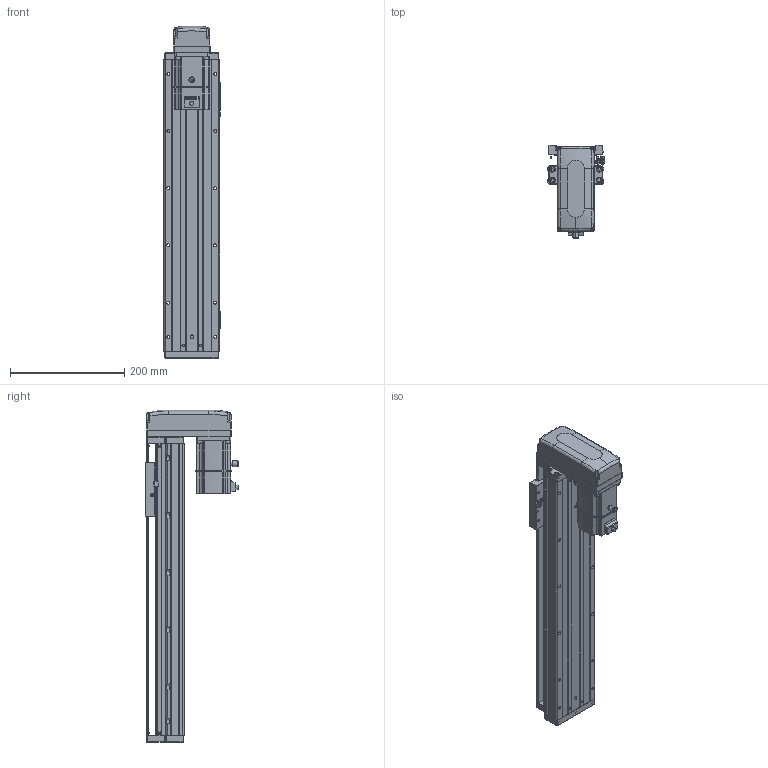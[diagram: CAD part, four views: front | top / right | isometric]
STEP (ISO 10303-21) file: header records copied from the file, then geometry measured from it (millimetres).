
FILE_DESCRIPTION (( 'STEP AP203' ), '1' );
FILE_NAME ('KTHA100-350-BM-M20-C4L.step', '2022-04-26T01:52:50', ( '微软用户' ), ( '微软中国' ), 'SwSTEP 2.0', 'SolidWorks 2020', '' );
FILE_SCHEMA (( 'CONFIG_CONTROL_DESIGN' ));
Length unit declared in the file: millimetre
Products named in the file (17): GBT70.1 M5℅16; GB¨uT 70.2-M3¡Á5_M3¡Á6; CTHA60-016; EE_SX911P_R; GBT 70.3-M3℅6; CTHA60-017; _X2_4E0983F1_X0_200W_1; KTHA100-001_510; CTHA60-021; CTHA86-015-1_CTHA86-015-2; KTHA100-002; GBT77-2000 M3×3; CTHA86-033; KTHA100-004; GBT 70.1-M3℅6; KTHA100-350-BM-M20-C4L; KTHA100-005
Assembly tree (57 placements, depth 2):
  KTHA100-350-BM-M20-C4L
    KTHA100-001_510
    KTHA100-002
    KTHA100-004
    KTHA100-005
    GB¨uT 70.2-M3¡Á5_M3¡Á6  x6
    EE_SX911P_R  x3
    CTHA60-017  x3
    CTHA60-021  x2
    GBT77-2000 M3×3  x6
    GBT 70.1-M3℅6  x10
    GBT70.1 M5℅16  x14
    CTHA60-016  x2
    GBT 70.3-M3℅6  x4
    _X2_4E0983F1_X0_200W_1
    CTHA86-015-1_CTHA86-015-2
    CTHA86-033
Bounding box: 98.82 x 163.2 x 581 mm (x, y, z)
Volume: 2802386.6 mm3; surface area: 464049.9 mm2
Topology: 60 solids, 60 shells, 2397 faces, 5721 edges, 3544 vertices
Faces by surface type: plane 1220, cylinder 665, cone 305, torus 116, bspline 75, sphere 16
Entity records: 40656 total; most frequent: CARTESIAN_POINT 8224, DIRECTION 6272, ORIENTED_EDGE 6054, EDGE_CURVE 3027, AXIS2_PLACEMENT_3D 2200, VERTEX_POINT 1904, LINE 1872, VECTOR 1872
